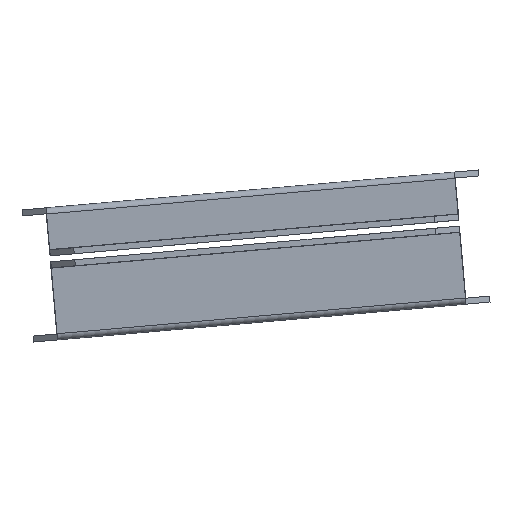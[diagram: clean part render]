
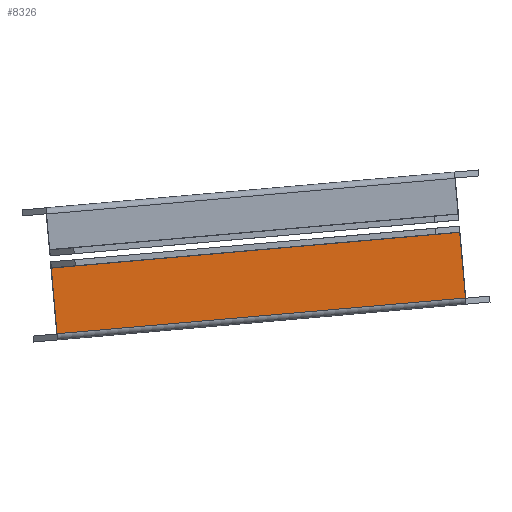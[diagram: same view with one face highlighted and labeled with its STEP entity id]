
A CAD part, left-side view. The second image highlights one B-rep face of the part: STEP entity #8326.
In plain terms, the highlighted planar face has unit normal (-1, 0, 0).
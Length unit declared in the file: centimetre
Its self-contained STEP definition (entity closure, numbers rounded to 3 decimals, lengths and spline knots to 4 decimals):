
#35 = PLANE ( 'NONE',  #4404 ) ;
#270 = LINE ( 'NONE', #9348, #3614 ) ;
#473 = LINE ( 'NONE', #2466, #2942 ) ;
#762 = CARTESIAN_POINT ( 'NONE',  ( -6.7888, -270.9171, 162.8118 ) ) ;
#831 = DIRECTION ( 'NONE',  ( 0., -0.087, -0.996 ) ) ;
#1274 = EDGE_CURVE ( 'NONE', #7313, #3606, #473, .T. ) ;
#1485 = ORIENTED_EDGE ( 'NONE', *, *, #9312, .F. ) ;
#1611 = DIRECTION ( 'NONE',  ( -1., 0., 0. ) ) ;
#2466 = CARTESIAN_POINT ( 'NONE',  ( -6.7888, -237.0011, 160.3665 ) ) ;
#2764 = LINE ( 'NONE', #6513, #9993 ) ;
#2942 = VECTOR ( 'NONE', #5257, 100. ) ;
#3409 = CARTESIAN_POINT ( 'NONE',  ( -6.7888, -271.3929, 157.3726 ) ) ;
#3606 = VERTEX_POINT ( 'NONE', #7927 ) ;
#3614 = VECTOR ( 'NONE', #3945, 100. ) ;
#3945 = DIRECTION ( 'NONE',  ( 0., -0.087, -0.996 ) ) ;
#4035 = ORIENTED_EDGE ( 'NONE', *, *, #5613, .T. ) ;
#4404 = AXIS2_PLACEMENT_3D ( 'NONE', #11115, #1611, #831 ) ;
#4610 = VECTOR ( 'NONE', #8089, 100. ) ;
#4904 = VERTEX_POINT ( 'NONE', #762 ) ;
#5257 = DIRECTION ( 'NONE',  ( 0., 0.087, 0.996 ) ) ;
#5495 = DIRECTION ( 'NONE',  ( 0., -0.996, 0.087 ) ) ;
#5613 = EDGE_CURVE ( 'NONE', #7313, #7494, #2764, .T. ) ;
#6025 = CARTESIAN_POINT ( 'NONE',  ( -6.7888, -237.0464, 159.8485 ) ) ;
#6212 = LINE ( 'NONE', #6025, #4610 ) ;
#6513 = CARTESIAN_POINT ( 'NONE',  ( -6.7888, -254.1084, 155.8604 ) ) ;
#7313 = VERTEX_POINT ( 'NONE', #9409 ) ;
#7316 = EDGE_CURVE ( 'NONE', #4904, #7494, #270, .T. ) ;
#7494 = VERTEX_POINT ( 'NONE', #3409 ) ;
#7663 = ORIENTED_EDGE ( 'NONE', *, *, #1274, .F. ) ;
#7927 = CARTESIAN_POINT ( 'NONE',  ( -6.7888, -237.0464, 159.8485 ) ) ;
#8089 = DIRECTION ( 'NONE',  ( 0., -0.996, 0.087 ) ) ;
#8326 = ADVANCED_FACE ( 'NONE', ( #10140 ), #35, .T. ) ;
#9312 = EDGE_CURVE ( 'NONE', #3606, #4904, #6212, .T. ) ;
#9348 = CARTESIAN_POINT ( 'NONE',  ( -6.7888, -271.3947, 157.3527 ) ) ;
#9409 = CARTESIAN_POINT ( 'NONE',  ( -6.7888, -237.5223, 154.4093 ) ) ;
#9621 = ORIENTED_EDGE ( 'NONE', *, *, #7316, .F. ) ;
#9993 = VECTOR ( 'NONE', #5495, 100. ) ;
#10140 = FACE_OUTER_BOUND ( 'NONE', #10498, .T. ) ;
#10498 = EDGE_LOOP ( 'NONE', ( #9621, #1485, #7663, #4035 ) ) ;
#11115 = CARTESIAN_POINT ( 'NONE',  ( -6.7888, -254.1537, 155.3424 ) ) ;
